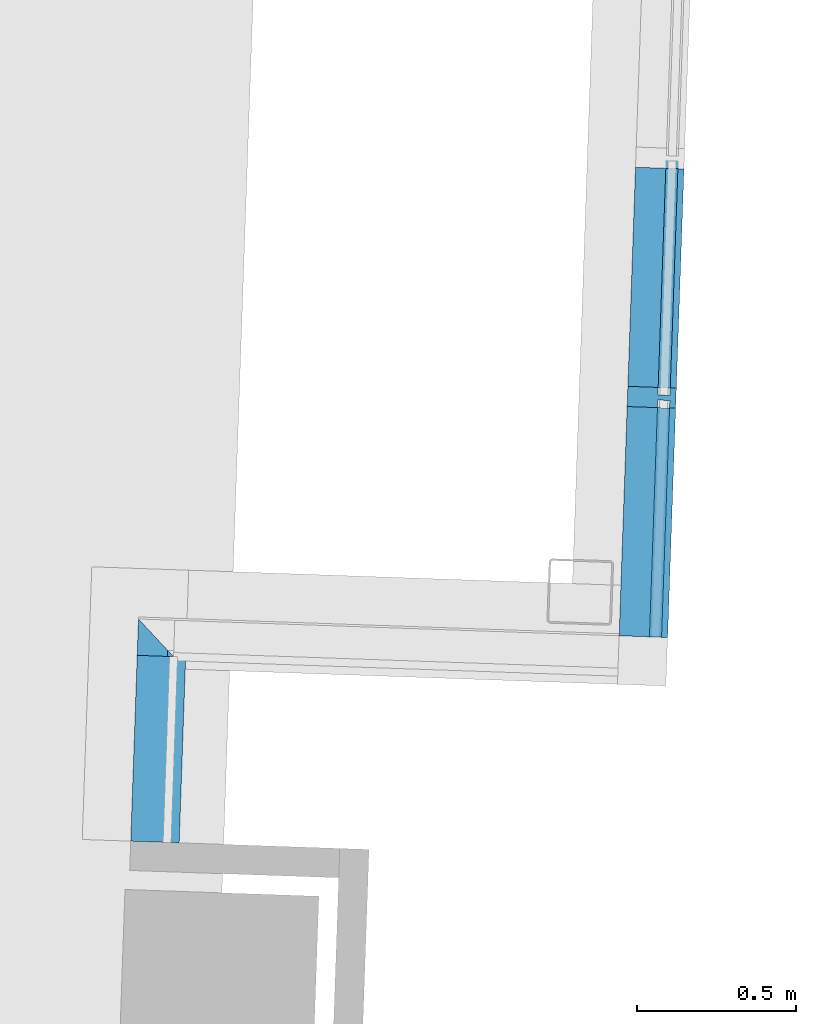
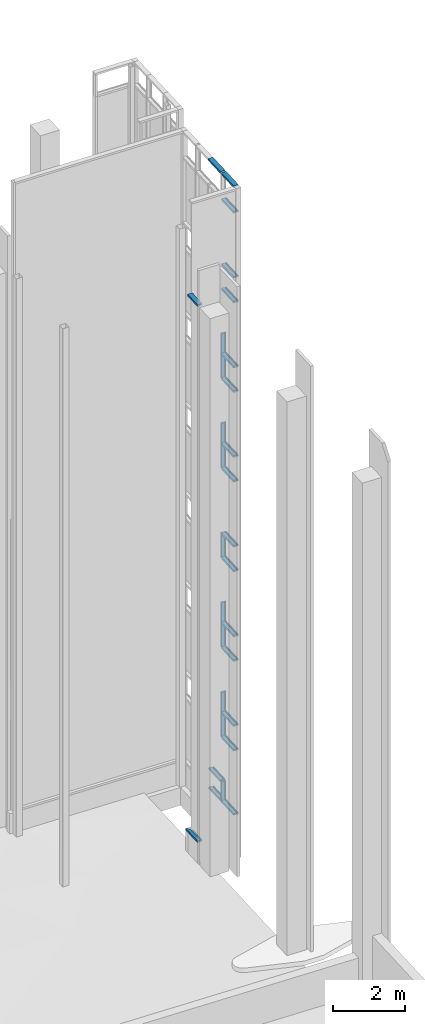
# One storey, part 14 of 44: 30 members, 2 elements without a shape of their own.
"""IFC2X3 building model written with IfcOpenShell, lengths in feet."""

from ifc_helpers import new_model, entity, si_unit, converted_unit, derived_unit, direction, frame, origin, place, context, subcontext, project, spatial, polyline, outline, extrude, clip, halfspace, material, type_object, element, aggregate, save


model = new_model("IFC2X3")

# Units and contexts
model_context = context("Model", 3, precision=0.0001, world=origin(), true_north=direction((0.999390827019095, 0.0348994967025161)))
body_context = subcontext(model_context, "Body", "Model", "MODEL_VIEW")
ifc_project = project(units=[converted_unit("LENGTHUNIT", "FOOT", entity("IfcRatioMeasure", 0.3048), si_unit("LENGTHUNIT", "METRE"), dimensions=[1, 0, 0, 0, 0, 0, 0]), converted_unit("AREAUNIT", "SQUARE FOOT", entity("IfcRatioMeasure", 0.09290304), si_unit("AREAUNIT", "SQUARE_METRE"), dimensions=[2, 0, 0, 0, 0, 0, 0]), converted_unit("VOLUMEUNIT", "CUBIC FOOT", entity("IfcRatioMeasure", 0.028316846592), si_unit("VOLUMEUNIT", "CUBIC_METRE"), dimensions=[3, 0, 0, 0, 0, 0, 0]), converted_unit("PLANEANGLEUNIT", "DEGREE", entity("IfcRatioMeasure", 0.0174532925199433), si_unit("PLANEANGLEUNIT", "RADIAN"), dimensions=[0, 0, 0, 0, 0, 0, 0]), si_unit("MASSUNIT", "GRAM", prefix="KILO"), si_unit("TIMEUNIT", "SECOND"), si_unit("FREQUENCYUNIT", "HERTZ"), si_unit("THERMODYNAMICTEMPERATUREUNIT", "DEGREE_CELSIUS"), derived_unit("THERMALTRANSMITTANCEUNIT", [(si_unit("MASSUNIT", "GRAM", prefix="KILO"), 1), (si_unit("THERMODYNAMICTEMPERATUREUNIT", "KELVIN"), -1), (si_unit("TIMEUNIT", "SECOND"), -3)]), derived_unit("VOLUMETRICFLOWRATEUNIT", [(si_unit("LENGTHUNIT", "METRE"), 3), (si_unit("TIMEUNIT", "SECOND"), -1)]), si_unit("ELECTRICCURRENTUNIT", "AMPERE"), si_unit("ELECTRICVOLTAGEUNIT", "VOLT"), si_unit("POWERUNIT", "WATT"), si_unit("FORCEUNIT", "NEWTON"), si_unit("ILLUMINANCEUNIT", "LUX"), si_unit("LUMINOUSFLUXUNIT", "LUMEN"), si_unit("LUMINOUSINTENSITYUNIT", "CANDELA"), derived_unit("USERDEFINED", [(si_unit("MASSUNIT", "GRAM", prefix="KILO"), -1), (si_unit("LENGTHUNIT", "METRE"), -2), (si_unit("TIMEUNIT", "SECOND"), 3), (si_unit("LUMINOUSFLUXUNIT", "LUMEN"), 1)]), derived_unit("LINEARVELOCITYUNIT", [(si_unit("LENGTHUNIT", "METRE"), 1), (si_unit("TIMEUNIT", "SECOND"), -1)]), si_unit("PRESSUREUNIT", "PASCAL"), derived_unit("USERDEFINED", [(si_unit("LENGTHUNIT", "METRE"), -2), (si_unit("MASSUNIT", "GRAM", prefix="KILO"), 1), (si_unit("TIMEUNIT", "SECOND"), -2)])], contexts=[model_context])

# Site, building, storey
site_placement = place(None, frame((892.518771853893, 322.38689265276, 0.00393700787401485), z_axis=(0.0, 0.0, 1.0), x_axis=(0.0348994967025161, 0.999390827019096, 0.0)))
site = spatial("IfcSite", under=ifc_project, at=site_placement, Name="Default", CompositionType="ELEMENT")
building_placement = place(site_placement, origin())
building = spatial("IfcBuilding", under=site, at=building_placement, CompositionType="ELEMENT")
storey_placement = place(building_placement, frame((0.0, 0.0, 544.75)))
storey = spatial("IfcBuildingStorey", under=building, at=storey_placement, Name="Exist Garage - Ground Level", CompositionType="ELEMENT", Elevation=544.75)

# Curtain wall, members
curtain_wall_type = type_object("IfcCurtainWallType", Name="Curtain Wall:(Existing) Curtainwall - Blank", PredefinedType="NOTDEFINED")
curtain_wall_1_placement = place(storey_placement, frame((0.0, 0.0, -544.75)))
curtain_wall_1 = element("IfcCurtainWall", 1, at=curtain_wall_1_placement, inside=storey, type_object=curtain_wall_type, Name="Curtain Wall:(Existing) Curtainwall - Blank", ObjectType="Curtain Wall:(Existing) Curtainwall - Blank")
ifc_material = material(Name="Metal - Aluminum")
member_1_placement = place(curtain_wall_1_placement, frame((0.0, 0.0, 544.75)))
member_1 = element("IfcMember", 2, at=member_1_placement, material=ifc_material, Name="Curtain Wall:(Existing) Curtainwall - Blank", ObjectType="Curtain Wall:(Existing) Curtainwall - Blank", context=body_context, shape_type="SweptSolid", body=[
    extrude(outline(polyline([(-0.13671875, -0.187500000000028), (0.0716145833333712, -0.187500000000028), (0.0716145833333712, -0.125000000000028), (-0.00651041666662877, -0.125000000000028), (-0.00651041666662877, 0.0), (0.0716145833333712, 0.0), (0.0716145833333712, 0.312499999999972), (-0.13671875, 0.312499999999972), (-0.13671875, -0.187500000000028)])), frame((91.7189634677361, 232.451453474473, 72.3216145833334), z_axis=(1.0, 0.0, 0.0), x_axis=(0.0, 0.0, -1.0)), (0.0, 0.0, 1.0), 2.36458333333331),
])
member_2_placement = place(curtain_wall_1_placement, frame((0.0, 0.0, 544.75)))
member_2 = element("IfcMember", 3, at=member_2_placement, material=ifc_material, Name="Curtain Wall:(Existing) Curtainwall - Blank", ObjectType="Curtain Wall:(Existing) Curtainwall - Blank", context=body_context, shape_type="SweptSolid", body=[
    extrude(outline(polyline([(-0.0716145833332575, -0.312499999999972), (0.136718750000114, -0.312499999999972), (0.136718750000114, 0.187500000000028), (-0.0716145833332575, 0.187500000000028), (-0.0716145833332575, 0.125000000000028), (0.00651041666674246, 0.125000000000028), (0.00651041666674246, 0.0), (-0.0716145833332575, 0.0), (-0.0716145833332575, -0.312499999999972)])), frame((94.0835468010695, 232.451453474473, 2.38671875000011), z_axis=(-1.0, 0.0, 0.0), x_axis=(0.0, 0.0, -1.0)), (0.0, 0.0, 1.0), 2.36458333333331),
])
member_3_placement = place(curtain_wall_1_placement, frame((0.0, 0.0, 544.75)))
member_3 = element("IfcMember", 4, at=member_3_placement, material=ifc_material, Name="Curtain Wall:(Existing) Curtainwall - Blank", ObjectType="Curtain Wall:(Existing) Curtainwall - Blank", context=body_context, shape_type="SweptSolid", body=[
    extrude(outline(polyline([(-0.13671875, -0.187500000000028), (0.0716145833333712, -0.187500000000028), (0.0716145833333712, -0.125000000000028), (-0.00651041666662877, -0.125000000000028), (-0.00651041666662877, 0.0), (0.0716145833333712, 0.0), (0.0716145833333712, 0.312499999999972), (-0.13671875, 0.312499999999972), (-0.13671875, -0.187500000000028)])), frame((94.2918801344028, 232.451453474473, 72.3216145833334), z_axis=(1.0, 0.0, 0.0), x_axis=(0.0, 0.0, -1.0)), (0.0, 0.0, 1.0), 2.36458333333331),
])
member_4_placement = place(curtain_wall_1_placement, frame((0.0, 0.0, 544.75)))
member_4 = element("IfcMember", 5, at=member_4_placement, material=ifc_material, Name="Curtain Wall:(Existing) Curtainwall - Blank", ObjectType="Curtain Wall:(Existing) Curtainwall - Blank", context=body_context, shape_type="SweptSolid", body=[
    extrude(outline(polyline([(-0.0716145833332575, -0.312499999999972), (0.136718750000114, -0.312499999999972), (0.136718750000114, 0.187500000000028), (-0.0716145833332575, 0.187500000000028), (-0.0716145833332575, 0.125000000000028), (0.00651041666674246, 0.125000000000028), (0.00651041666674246, 0.0), (-0.0716145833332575, 0.0), (-0.0716145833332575, -0.312499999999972)])), frame((96.5522968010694, 232.451453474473, 2.38671875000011), z_axis=(-1.0, 0.0, 0.0), x_axis=(0.0, 0.0, -1.0)), (0.0, 0.0, 1.0), 2.26041666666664),
])
member_5_placement = place(curtain_wall_1_placement, frame((0.0, 0.0, 544.75)))
member_5 = element("IfcMember", 6, at=member_5_placement, material=ifc_material, Name="Curtain Wall:(Existing) Curtainwall - Blank", ObjectType="Curtain Wall:(Existing) Curtainwall - Blank", context=body_context, shape_type="SweptSolid", body=[
    extrude(outline(polyline([(-0.104166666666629, -0.166666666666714), (0.104166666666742, -0.166666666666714), (0.104166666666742, -0.104166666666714), (0.0260416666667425, -0.104166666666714), (0.0260416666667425, 0.020833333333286), (0.104166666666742, 0.020833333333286), (0.104166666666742, 0.333333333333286), (-0.104166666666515, 0.333333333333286), (-0.104166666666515, 0.020833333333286), (-0.0260416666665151, 0.020833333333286), (-0.0260416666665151, -0.104166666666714), (-0.104166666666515, -0.104166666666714), (-0.104166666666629, -0.166666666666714)])), frame((94.2918801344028, 232.43062014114, 4.50000000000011), z_axis=(1.0, 0.0, 0.0), x_axis=(0.0, 0.0, -1.0)), (0.0, 0.0, 1.0), 2.26041666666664),
])
member_6_placement = place(curtain_wall_1_placement, frame((0.0, 0.0, 544.75)))
member_6 = element("IfcMember", 7, at=member_6_placement, material=ifc_material, Name="Curtain Wall:(Existing) Curtainwall - Blank", ObjectType="Curtain Wall:(Existing) Curtainwall - Blank", context=body_context, shape_type="SweptSolid", body=[
    extrude(outline(polyline([(-0.104166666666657, -0.333333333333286), (0.104166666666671, -0.333333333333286), (0.104166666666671, -0.020833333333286), (0.0260416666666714, -0.020833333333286), (0.0260416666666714, 0.104166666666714), (0.104166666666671, 0.104166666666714), (0.104166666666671, 0.166666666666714), (-0.104166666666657, 0.166666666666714), (-0.104166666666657, 0.104166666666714), (-0.0260416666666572, 0.104166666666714), (-0.0260416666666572, -0.020833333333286), (-0.104166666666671, -0.020833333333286), (-0.104166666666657, -0.333333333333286)])), frame((94.1877134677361, 232.43062014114, 52.25), z_axis=(0.0, 0.0, 1.0), x_axis=(-1.0, 0.0, 0.0)), (0.0, 0.0, 1.0), 2.25),
])
member_7_placement = place(curtain_wall_1_placement, frame((0.0, 0.0, 544.75)))
member_7 = element("IfcMember", 8, at=member_7_placement, material=ifc_material, Name="Curtain Wall:(Existing) Curtainwall - Blank", ObjectType="Curtain Wall:(Existing) Curtainwall - Blank", context=body_context, shape_type="SweptSolid", body=[
    extrude(outline(polyline([(-0.104166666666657, -0.333333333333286), (0.104166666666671, -0.333333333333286), (0.104166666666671, -0.020833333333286), (0.0260416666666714, -0.020833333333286), (0.0260416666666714, 0.104166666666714), (0.104166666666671, 0.104166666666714), (0.104166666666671, 0.166666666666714), (-0.104166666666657, 0.166666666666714), (-0.104166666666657, 0.104166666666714), (-0.0260416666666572, 0.104166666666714), (-0.0260416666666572, -0.020833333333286), (-0.104166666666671, -0.020833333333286), (-0.104166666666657, -0.333333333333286)])), frame((94.1877134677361, 232.43062014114, 49.5), z_axis=(0.0, 0.0, 1.0), x_axis=(-1.0, 0.0, 0.0)), (0.0, 0.0, 1.0), 2.75),
])
member_8_placement = place(curtain_wall_1_placement, frame((0.0, 0.0, 544.75)))
member_8 = element("IfcMember", 9, at=member_8_placement, material=ifc_material, Name="Curtain Wall:(Existing) Curtainwall - Blank", ObjectType="Curtain Wall:(Existing) Curtainwall - Blank", context=body_context, shape_type="SweptSolid", body=[
    extrude(outline(polyline([(-0.104166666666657, -0.333333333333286), (0.104166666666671, -0.333333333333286), (0.104166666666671, -0.020833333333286), (0.0260416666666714, -0.020833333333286), (0.0260416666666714, 0.104166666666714), (0.104166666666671, 0.104166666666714), (0.104166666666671, 0.166666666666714), (-0.104166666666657, 0.166666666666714), (-0.104166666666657, 0.104166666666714), (-0.0260416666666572, 0.104166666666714), (-0.0260416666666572, -0.020833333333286), (-0.104166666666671, -0.020833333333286), (-0.104166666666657, -0.333333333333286)])), frame((94.1877134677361, 232.43062014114, 42.25), z_axis=(0.0, 0.0, 1.0), x_axis=(-1.0, 0.0, 0.0)), (0.0, 0.0, 1.0), 2.25),
])
member_9_placement = place(curtain_wall_1_placement, frame((0.0, 0.0, 544.75)))
member_9 = element("IfcMember", 10, at=member_9_placement, material=ifc_material, Name="Curtain Wall:(Existing) Curtainwall - Blank", ObjectType="Curtain Wall:(Existing) Curtainwall - Blank", context=body_context, shape_type="SweptSolid", body=[
    extrude(outline(polyline([(-0.104166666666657, -0.333333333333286), (0.104166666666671, -0.333333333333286), (0.104166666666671, -0.020833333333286), (0.0260416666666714, -0.020833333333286), (0.0260416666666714, 0.104166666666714), (0.104166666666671, 0.104166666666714), (0.104166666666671, 0.166666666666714), (-0.104166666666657, 0.166666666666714), (-0.104166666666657, 0.104166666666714), (-0.0260416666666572, 0.104166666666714), (-0.0260416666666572, -0.020833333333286), (-0.104166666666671, -0.020833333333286), (-0.104166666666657, -0.333333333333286)])), frame((94.1877134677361, 232.43062014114, 39.5), z_axis=(0.0, 0.0, 1.0), x_axis=(-1.0, 0.0, 0.0)), (0.0, 0.0, 1.0), 2.75),
])
member_10_placement = place(curtain_wall_1_placement, frame((0.0, 0.0, 544.75)))
member_10 = element("IfcMember", 11, at=member_10_placement, material=ifc_material, Name="Curtain Wall:(Existing) Curtainwall - Blank", ObjectType="Curtain Wall:(Existing) Curtainwall - Blank", context=body_context, shape_type="SweptSolid", body=[
    extrude(outline(polyline([(-0.104166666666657, -0.333333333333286), (0.104166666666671, -0.333333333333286), (0.104166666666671, -0.020833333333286), (0.0260416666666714, -0.020833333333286), (0.0260416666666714, 0.104166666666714), (0.104166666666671, 0.104166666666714), (0.104166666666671, 0.166666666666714), (-0.104166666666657, 0.166666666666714), (-0.104166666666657, 0.104166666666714), (-0.0260416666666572, 0.104166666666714), (-0.0260416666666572, -0.020833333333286), (-0.104166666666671, -0.020833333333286), (-0.104166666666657, -0.333333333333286)])), frame((94.1877134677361, 232.43062014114, 2.25), z_axis=(0.0, 0.0, 1.0), x_axis=(-1.0, 0.0, 0.0)), (0.0, 0.0, 1.0), 2.25),
])
member_11_placement = place(curtain_wall_1_placement, frame((0.0, 0.0, 544.75)))
member_11 = element("IfcMember", 12, at=member_11_placement, material=ifc_material, Name="Curtain Wall:(Existing) Curtainwall - Blank", ObjectType="Curtain Wall:(Existing) Curtainwall - Blank", context=body_context, shape_type="SweptSolid", body=[
    extrude(outline(polyline([(-0.104166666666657, -0.333333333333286), (0.104166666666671, -0.333333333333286), (0.104166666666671, -0.020833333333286), (0.0260416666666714, -0.020833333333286), (0.0260416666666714, 0.104166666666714), (0.104166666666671, 0.104166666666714), (0.104166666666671, 0.166666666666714), (-0.104166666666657, 0.166666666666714), (-0.104166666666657, 0.104166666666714), (-0.0260416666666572, 0.104166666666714), (-0.0260416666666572, -0.020833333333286), (-0.104166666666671, -0.020833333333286), (-0.104166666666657, -0.333333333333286)])), frame((94.1877134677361, 232.43062014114, 9.5), z_axis=(0.0, 0.0, 1.0), x_axis=(-1.0, 0.0, 0.0)), (0.0, 0.0, 1.0), 2.75),
])
member_12_placement = place(curtain_wall_1_placement, frame((0.0, 0.0, 544.75)))
member_12 = element("IfcMember", 13, at=member_12_placement, material=ifc_material, Name="Curtain Wall:(Existing) Curtainwall - Blank", ObjectType="Curtain Wall:(Existing) Curtainwall - Blank", context=body_context, shape_type="SweptSolid", body=[
    extrude(outline(polyline([(-0.104166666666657, -0.333333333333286), (0.104166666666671, -0.333333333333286), (0.104166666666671, -0.020833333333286), (0.0260416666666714, -0.020833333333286), (0.0260416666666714, 0.104166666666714), (0.104166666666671, 0.104166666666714), (0.104166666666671, 0.166666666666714), (-0.104166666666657, 0.166666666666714), (-0.104166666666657, 0.104166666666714), (-0.0260416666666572, 0.104166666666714), (-0.0260416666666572, -0.020833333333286), (-0.104166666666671, -0.020833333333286), (-0.104166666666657, -0.333333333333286)])), frame((94.1877134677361, 232.43062014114, 12.25), z_axis=(0.0, 0.0, 1.0), x_axis=(-1.0, 0.0, 0.0)), (0.0, 0.0, 1.0), 2.25),
])
member_13_placement = place(curtain_wall_1_placement, frame((0.0, 0.0, 544.75)))
member_13 = element("IfcMember", 14, at=member_13_placement, material=ifc_material, Name="Curtain Wall:(Existing) Curtainwall - Blank", ObjectType="Curtain Wall:(Existing) Curtainwall - Blank", context=body_context, shape_type="SweptSolid", body=[
    extrude(outline(polyline([(-0.104166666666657, -0.333333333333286), (0.104166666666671, -0.333333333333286), (0.104166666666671, -0.020833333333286), (0.0260416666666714, -0.020833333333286), (0.0260416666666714, 0.104166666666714), (0.104166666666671, 0.104166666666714), (0.104166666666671, 0.166666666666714), (-0.104166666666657, 0.166666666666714), (-0.104166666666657, 0.104166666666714), (-0.0260416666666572, 0.104166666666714), (-0.0260416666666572, -0.020833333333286), (-0.104166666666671, -0.020833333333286), (-0.104166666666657, -0.333333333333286)])), frame((94.1877134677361, 232.43062014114, 19.5), z_axis=(0.0, 0.0, 1.0), x_axis=(-1.0, 0.0, 0.0)), (0.0, 0.0, 1.0), 2.75),
])
member_14_placement = place(curtain_wall_1_placement, frame((0.0, 0.0, 544.75)))
member_14 = element("IfcMember", 15, at=member_14_placement, material=ifc_material, Name="Curtain Wall:(Existing) Curtainwall - Blank", ObjectType="Curtain Wall:(Existing) Curtainwall - Blank", context=body_context, shape_type="SweptSolid", body=[
    extrude(outline(polyline([(-0.104166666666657, -0.333333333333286), (0.104166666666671, -0.333333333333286), (0.104166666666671, -0.020833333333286), (0.0260416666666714, -0.020833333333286), (0.0260416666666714, 0.104166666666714), (0.104166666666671, 0.104166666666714), (0.104166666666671, 0.166666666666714), (-0.104166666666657, 0.166666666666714), (-0.104166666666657, 0.104166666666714), (-0.0260416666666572, 0.104166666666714), (-0.0260416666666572, -0.020833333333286), (-0.104166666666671, -0.020833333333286), (-0.104166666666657, -0.333333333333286)])), frame((94.1877134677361, 232.43062014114, 22.25), z_axis=(0.0, 0.0, 1.0), x_axis=(-1.0, 0.0, 0.0)), (0.0, 0.0, 1.0), 2.25),
])
member_15_placement = place(curtain_wall_1_placement, frame((0.0, 0.0, 544.75)))
member_15 = element("IfcMember", 16, at=member_15_placement, material=ifc_material, Name="Curtain Wall:(Existing) Curtainwall - Blank", ObjectType="Curtain Wall:(Existing) Curtainwall - Blank", context=body_context, shape_type="SweptSolid", body=[
    extrude(outline(polyline([(-0.104166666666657, -0.333333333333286), (0.104166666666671, -0.333333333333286), (0.104166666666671, -0.020833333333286), (0.0260416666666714, -0.020833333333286), (0.0260416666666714, 0.104166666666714), (0.104166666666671, 0.104166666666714), (0.104166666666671, 0.166666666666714), (-0.104166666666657, 0.166666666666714), (-0.104166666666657, 0.104166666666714), (-0.0260416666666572, 0.104166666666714), (-0.0260416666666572, -0.020833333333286), (-0.104166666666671, -0.020833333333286), (-0.104166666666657, -0.333333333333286)])), frame((94.1877134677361, 232.43062014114, 29.5), z_axis=(0.0, 0.0, 1.0), x_axis=(-1.0, 0.0, 0.0)), (0.0, 0.0, 1.0), 2.75),
])
member_16_placement = place(curtain_wall_1_placement, frame((0.0, 0.0, 544.75)))
member_16 = element("IfcMember", 17, at=member_16_placement, material=ifc_material, Name="Curtain Wall:(Existing) Curtainwall - Blank", ObjectType="Curtain Wall:(Existing) Curtainwall - Blank", context=body_context, shape_type="SweptSolid", body=[
    extrude(outline(polyline([(-0.104166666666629, -0.166666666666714), (0.104166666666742, -0.166666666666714), (0.104166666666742, -0.104166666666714), (0.0260416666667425, -0.104166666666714), (0.0260416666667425, 0.020833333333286), (0.104166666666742, 0.020833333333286), (0.104166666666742, 0.333333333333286), (-0.104166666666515, 0.333333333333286), (-0.104166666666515, 0.020833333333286), (-0.0260416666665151, 0.020833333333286), (-0.0260416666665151, -0.104166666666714), (-0.104166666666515, -0.104166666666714), (-0.104166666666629, -0.166666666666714)])), frame((91.7189634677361, 232.43062014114, 9.50000000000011), z_axis=(1.0, 0.0, 0.0), x_axis=(0.0, 0.0, -1.0)), (0.0, 0.0, 1.0), 2.36458333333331),
])
member_17_placement = place(curtain_wall_1_placement, frame((0.0, 0.0, 544.75)))
member_17 = element("IfcMember", 18, at=member_17_placement, material=ifc_material, Name="Curtain Wall:(Existing) Curtainwall - Blank", ObjectType="Curtain Wall:(Existing) Curtainwall - Blank", context=body_context, shape_type="SweptSolid", body=[
    extrude(outline(polyline([(-0.104166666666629, -0.166666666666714), (0.104166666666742, -0.166666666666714), (0.104166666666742, -0.104166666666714), (0.0260416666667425, -0.104166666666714), (0.0260416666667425, 0.020833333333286), (0.104166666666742, 0.020833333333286), (0.104166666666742, 0.333333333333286), (-0.104166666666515, 0.333333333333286), (-0.104166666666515, 0.020833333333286), (-0.0260416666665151, 0.020833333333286), (-0.0260416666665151, -0.104166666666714), (-0.104166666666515, -0.104166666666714), (-0.104166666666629, -0.166666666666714)])), frame((91.7189634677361, 232.43062014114, 12.2500000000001), z_axis=(1.0, 0.0, 0.0), x_axis=(0.0, 0.0, -1.0)), (0.0, 0.0, 1.0), 2.36458333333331),
])
member_18_placement = place(curtain_wall_1_placement, frame((0.0, 0.0, 544.75)))
member_18 = element("IfcMember", 19, at=member_18_placement, material=ifc_material, Name="Curtain Wall:(Existing) Curtainwall - Blank", ObjectType="Curtain Wall:(Existing) Curtainwall - Blank", context=body_context, shape_type="SweptSolid", body=[
    extrude(outline(polyline([(-0.104166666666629, -0.166666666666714), (0.104166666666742, -0.166666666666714), (0.104166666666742, -0.104166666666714), (0.0260416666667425, -0.104166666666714), (0.0260416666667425, 0.020833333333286), (0.104166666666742, 0.020833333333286), (0.104166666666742, 0.333333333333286), (-0.104166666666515, 0.333333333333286), (-0.104166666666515, 0.020833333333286), (-0.0260416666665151, 0.020833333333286), (-0.0260416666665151, -0.104166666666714), (-0.104166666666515, -0.104166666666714), (-0.104166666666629, -0.166666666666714)])), frame((91.7189634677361, 232.43062014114, 19.5000000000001), z_axis=(1.0, 0.0, 0.0), x_axis=(0.0, 0.0, -1.0)), (0.0, 0.0, 1.0), 2.36458333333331),
])
member_19_placement = place(curtain_wall_1_placement, frame((0.0, 0.0, 544.75)))
member_19 = element("IfcMember", 20, at=member_19_placement, material=ifc_material, Name="Curtain Wall:(Existing) Curtainwall - Blank", ObjectType="Curtain Wall:(Existing) Curtainwall - Blank", context=body_context, shape_type="SweptSolid", body=[
    extrude(outline(polyline([(-0.104166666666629, -0.166666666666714), (0.104166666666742, -0.166666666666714), (0.104166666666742, -0.104166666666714), (0.0260416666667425, -0.104166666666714), (0.0260416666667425, 0.020833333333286), (0.104166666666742, 0.020833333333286), (0.104166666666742, 0.333333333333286), (-0.104166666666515, 0.333333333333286), (-0.104166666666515, 0.020833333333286), (-0.0260416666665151, 0.020833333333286), (-0.0260416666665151, -0.104166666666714), (-0.104166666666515, -0.104166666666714), (-0.104166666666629, -0.166666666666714)])), frame((91.7189634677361, 232.43062014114, 22.2500000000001), z_axis=(1.0, 0.0, 0.0), x_axis=(0.0, 0.0, -1.0)), (0.0, 0.0, 1.0), 2.36458333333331),
])
member_20_placement = place(curtain_wall_1_placement, frame((0.0, 0.0, 544.75)))
member_20 = element("IfcMember", 21, at=member_20_placement, material=ifc_material, Name="Curtain Wall:(Existing) Curtainwall - Blank", ObjectType="Curtain Wall:(Existing) Curtainwall - Blank", context=body_context, shape_type="SweptSolid", body=[
    extrude(outline(polyline([(-0.104166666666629, -0.166666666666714), (0.104166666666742, -0.166666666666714), (0.104166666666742, -0.104166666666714), (0.0260416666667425, -0.104166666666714), (0.0260416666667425, 0.020833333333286), (0.104166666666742, 0.020833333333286), (0.104166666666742, 0.333333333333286), (-0.104166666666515, 0.333333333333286), (-0.104166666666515, 0.020833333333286), (-0.0260416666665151, 0.020833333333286), (-0.0260416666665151, -0.104166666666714), (-0.104166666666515, -0.104166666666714), (-0.104166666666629, -0.166666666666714)])), frame((91.7189634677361, 232.43062014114, 29.5000000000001), z_axis=(1.0, 0.0, 0.0), x_axis=(0.0, 0.0, -1.0)), (0.0, 0.0, 1.0), 2.36458333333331),
])
member_21_placement = place(curtain_wall_1_placement, frame((0.0, 0.0, 544.75)))
member_21 = element("IfcMember", 22, at=member_21_placement, material=ifc_material, Name="Curtain Wall:(Existing) Curtainwall - Blank", ObjectType="Curtain Wall:(Existing) Curtainwall - Blank", context=body_context, shape_type="SweptSolid", body=[
    extrude(outline(polyline([(-0.104166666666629, -0.166666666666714), (0.104166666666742, -0.166666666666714), (0.104166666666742, -0.104166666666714), (0.0260416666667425, -0.104166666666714), (0.0260416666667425, 0.020833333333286), (0.104166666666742, 0.020833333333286), (0.104166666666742, 0.333333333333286), (-0.104166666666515, 0.333333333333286), (-0.104166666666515, 0.020833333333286), (-0.0260416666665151, 0.020833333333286), (-0.0260416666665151, -0.104166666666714), (-0.104166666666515, -0.104166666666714), (-0.104166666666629, -0.166666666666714)])), frame((91.7189634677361, 232.43062014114, 32.2500000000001), z_axis=(1.0, 0.0, 0.0), x_axis=(0.0, 0.0, -1.0)), (0.0, 0.0, 1.0), 2.36458333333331),
])
member_22_placement = place(curtain_wall_1_placement, frame((0.0, 0.0, 544.75)))
member_22 = element("IfcMember", 23, at=member_22_placement, material=ifc_material, Name="Curtain Wall:(Existing) Curtainwall - Blank", ObjectType="Curtain Wall:(Existing) Curtainwall - Blank", context=body_context, shape_type="SweptSolid", body=[
    extrude(outline(polyline([(-0.104166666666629, -0.166666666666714), (0.104166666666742, -0.166666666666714), (0.104166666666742, -0.104166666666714), (0.0260416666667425, -0.104166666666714), (0.0260416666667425, 0.020833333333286), (0.104166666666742, 0.020833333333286), (0.104166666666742, 0.333333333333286), (-0.104166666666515, 0.333333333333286), (-0.104166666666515, 0.020833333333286), (-0.0260416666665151, 0.020833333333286), (-0.0260416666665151, -0.104166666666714), (-0.104166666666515, -0.104166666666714), (-0.104166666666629, -0.166666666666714)])), frame((91.7189634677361, 232.43062014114, 39.5000000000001), z_axis=(1.0, 0.0, 0.0), x_axis=(0.0, 0.0, -1.0)), (0.0, 0.0, 1.0), 2.36458333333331),
])
member_23_placement = place(curtain_wall_1_placement, frame((0.0, 0.0, 544.75)))
member_23 = element("IfcMember", 24, at=member_23_placement, material=ifc_material, Name="Curtain Wall:(Existing) Curtainwall - Blank", ObjectType="Curtain Wall:(Existing) Curtainwall - Blank", context=body_context, shape_type="SweptSolid", body=[
    extrude(outline(polyline([(-0.104166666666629, -0.166666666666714), (0.104166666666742, -0.166666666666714), (0.104166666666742, -0.104166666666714), (0.0260416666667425, -0.104166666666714), (0.0260416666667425, 0.020833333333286), (0.104166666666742, 0.020833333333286), (0.104166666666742, 0.333333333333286), (-0.104166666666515, 0.333333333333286), (-0.104166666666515, 0.020833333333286), (-0.0260416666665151, 0.020833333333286), (-0.0260416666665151, -0.104166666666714), (-0.104166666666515, -0.104166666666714), (-0.104166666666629, -0.166666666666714)])), frame((91.7189634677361, 232.43062014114, 42.2500000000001), z_axis=(1.0, 0.0, 0.0), x_axis=(0.0, 0.0, -1.0)), (0.0, 0.0, 1.0), 2.36458333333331),
])
member_24_placement = place(curtain_wall_1_placement, frame((0.0, 0.0, 544.75)))
member_24 = element("IfcMember", 25, at=member_24_placement, material=ifc_material, Name="Curtain Wall:(Existing) Curtainwall - Blank", ObjectType="Curtain Wall:(Existing) Curtainwall - Blank", context=body_context, shape_type="SweptSolid", body=[
    extrude(outline(polyline([(-0.104166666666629, -0.166666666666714), (0.104166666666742, -0.166666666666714), (0.104166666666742, -0.104166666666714), (0.0260416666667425, -0.104166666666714), (0.0260416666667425, 0.020833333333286), (0.104166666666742, 0.020833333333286), (0.104166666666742, 0.333333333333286), (-0.104166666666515, 0.333333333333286), (-0.104166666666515, 0.020833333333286), (-0.0260416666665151, 0.020833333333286), (-0.0260416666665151, -0.104166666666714), (-0.104166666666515, -0.104166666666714), (-0.104166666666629, -0.166666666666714)])), frame((91.7189634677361, 232.43062014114, 49.5000000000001), z_axis=(1.0, 0.0, 0.0), x_axis=(0.0, 0.0, -1.0)), (0.0, 0.0, 1.0), 2.36458333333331),
])
member_25_placement = place(curtain_wall_1_placement, frame((0.0, 0.0, 544.75)))
member_25 = element("IfcMember", 26, at=member_25_placement, material=ifc_material, Name="Curtain Wall:(Existing) Curtainwall - Blank", ObjectType="Curtain Wall:(Existing) Curtainwall - Blank", context=body_context, shape_type="SweptSolid", body=[
    extrude(outline(polyline([(-0.104166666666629, -0.166666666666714), (0.104166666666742, -0.166666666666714), (0.104166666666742, -0.104166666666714), (0.0260416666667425, -0.104166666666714), (0.0260416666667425, 0.020833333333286), (0.104166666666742, 0.020833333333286), (0.104166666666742, 0.333333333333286), (-0.104166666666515, 0.333333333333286), (-0.104166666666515, 0.020833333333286), (-0.0260416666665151, 0.020833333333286), (-0.0260416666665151, -0.104166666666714), (-0.104166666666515, -0.104166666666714), (-0.104166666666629, -0.166666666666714)])), frame((91.7189634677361, 232.43062014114, 52.2500000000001), z_axis=(1.0, 0.0, 0.0), x_axis=(0.0, 0.0, -1.0)), (0.0, 0.0, 1.0), 2.36458333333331),
])
member_26_placement = place(curtain_wall_1_placement, frame((0.0, 0.0, 544.75)))
member_26 = element("IfcMember", 27, at=member_26_placement, material=ifc_material, Name="Curtain Wall:(Existing) Curtainwall - Blank", ObjectType="Curtain Wall:(Existing) Curtainwall - Blank", context=body_context, shape_type="SweptSolid", body=[
    extrude(outline(polyline([(-0.104166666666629, -0.166666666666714), (0.104166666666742, -0.166666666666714), (0.104166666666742, -0.104166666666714), (0.0260416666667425, -0.104166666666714), (0.0260416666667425, 0.020833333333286), (0.104166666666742, 0.020833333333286), (0.104166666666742, 0.333333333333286), (-0.104166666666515, 0.333333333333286), (-0.104166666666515, 0.020833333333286), (-0.0260416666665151, 0.020833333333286), (-0.0260416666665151, -0.104166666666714), (-0.104166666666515, -0.104166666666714), (-0.104166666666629, -0.166666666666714)])), frame((91.7189634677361, 232.43062014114, 59.5000000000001), z_axis=(1.0, 0.0, 0.0), x_axis=(0.0, 0.0, -1.0)), (0.0, 0.0, 1.0), 2.36458333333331),
])
member_27_placement = place(curtain_wall_1_placement, frame((0.0, 0.0, 544.75)))
member_27 = element("IfcMember", 28, at=member_27_placement, material=ifc_material, Name="Curtain Wall:(Existing) Curtainwall - Blank", ObjectType="Curtain Wall:(Existing) Curtainwall - Blank", context=body_context, shape_type="SweptSolid", body=[
    extrude(outline(polyline([(-0.104166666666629, -0.166666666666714), (0.104166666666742, -0.166666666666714), (0.104166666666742, -0.104166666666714), (0.0260416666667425, -0.104166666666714), (0.0260416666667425, 0.020833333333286), (0.104166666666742, 0.020833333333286), (0.104166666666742, 0.333333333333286), (-0.104166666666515, 0.333333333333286), (-0.104166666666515, 0.020833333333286), (-0.0260416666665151, 0.020833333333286), (-0.0260416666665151, -0.104166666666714), (-0.104166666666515, -0.104166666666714), (-0.104166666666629, -0.166666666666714)])), frame((91.7189634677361, 232.43062014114, 62.2500000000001), z_axis=(1.0, 0.0, 0.0), x_axis=(0.0, 0.0, -1.0)), (0.0, 0.0, 1.0), 2.36458333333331),
])
member_28_placement = place(curtain_wall_1_placement, frame((0.0, 0.0, 544.75)))
member_28 = element("IfcMember", 29, at=member_28_placement, material=ifc_material, Name="Curtain Wall:(Existing) Curtainwall - Blank", ObjectType="Curtain Wall:(Existing) Curtainwall - Blank", context=body_context, shape_type="SweptSolid", body=[
    extrude(outline(polyline([(-0.104166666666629, -0.166666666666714), (0.104166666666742, -0.166666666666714), (0.104166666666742, -0.104166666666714), (0.0260416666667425, -0.104166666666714), (0.0260416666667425, 0.020833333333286), (0.104166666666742, 0.020833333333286), (0.104166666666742, 0.333333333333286), (-0.104166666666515, 0.333333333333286), (-0.104166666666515, 0.020833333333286), (-0.0260416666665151, 0.020833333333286), (-0.0260416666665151, -0.104166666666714), (-0.104166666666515, -0.104166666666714), (-0.104166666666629, -0.166666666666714)])), frame((91.7189634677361, 232.43062014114, 69.5000000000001), z_axis=(1.0, 0.0, 0.0), x_axis=(0.0, 0.0, -1.0)), (0.0, 0.0, 1.0), 2.36458333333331),
])
aggregate(curtain_wall_1, [member_1, member_2, member_3, member_4, member_5, member_6, member_7, member_8, member_9, member_10, member_11, member_12, member_13, member_14, member_15, member_16, member_17, member_18, member_19, member_20, member_21, member_22, member_23, member_24, member_25, member_26, member_27, member_28])

curtain_wall_2_placement = place(storey_placement, frame((0.0, 0.0, -544.75)))
curtain_wall_2 = element("IfcCurtainWall", 30, at=curtain_wall_2_placement, inside=storey, type_object=curtain_wall_type, Name="Curtain Wall:(Existing) Curtainwall - Blank", ObjectType="Curtain Wall:(Existing) Curtainwall - Blank")
member_29_placement = place(curtain_wall_2_placement, frame((0.0, 0.0, 544.75)))
member_29 = element("IfcMember", 31, at=member_29_placement, material=ifc_material, Name="Curtain Wall:(Existing) Curtainwall - Blank", ObjectType="Curtain Wall:(Existing) Curtainwall - Blank", context=body_context, shape_type="Clipping", body=[
    clip(extrude(outline(polyline([(-0.0716145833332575, -0.312499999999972), (0.136718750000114, -0.312499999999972), (0.136718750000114, 0.187500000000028), (-0.0716145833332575, 0.187500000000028), (-0.0716145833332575, 0.125000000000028), (0.00651041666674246, 0.125000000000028), (0.00651041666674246, 0.0), (-0.0716145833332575, 0.0), (-0.0716145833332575, -0.312499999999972)])), frame((91.7189634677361, 237.409786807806, 2.38671875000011), z_axis=(-1.0, 0.0, 0.0), x_axis=(0.0, 0.0, -1.0)), (0.0, 0.0, 1.0), 2.29166666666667), halfspace(frame((91.3439634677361, 237.347286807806, 1.25), z_axis=(0.707106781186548, -0.707106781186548, 0.0), x_axis=(0.707106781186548, 0.707106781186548, 0.0)), False)),
])
member_30_placement = place(curtain_wall_2_placement, frame((0.0, 0.0, 544.75)))
member_30 = element("IfcMember", 32, at=member_30_placement, material=ifc_material, Name="Curtain Wall:(Existing) Curtainwall - Blank", ObjectType="Curtain Wall:(Existing) Curtainwall - Blank", context=body_context, shape_type="SweptSolid", body=[
    extrude(outline(polyline([(-0.136718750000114, -0.187500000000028), (0.0716145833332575, -0.187500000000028), (0.0716145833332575, -0.125000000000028), (-0.00651041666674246, -0.125000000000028), (-0.00651041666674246, 0.0), (0.0716145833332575, 0.0), (0.0716145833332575, 0.312499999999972), (-0.136718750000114, 0.312499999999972), (-0.136718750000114, -0.187500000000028)])), frame((89.4272968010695, 237.409786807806, 62.1132812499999), z_axis=(1.0, 0.0, 0.0), x_axis=(0.0, 0.0, -1.0)), (0.0, 0.0, 1.0), 1.91666666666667),
])
aggregate(curtain_wall_2, [member_29, member_30])

save(model, "model.ifc")
